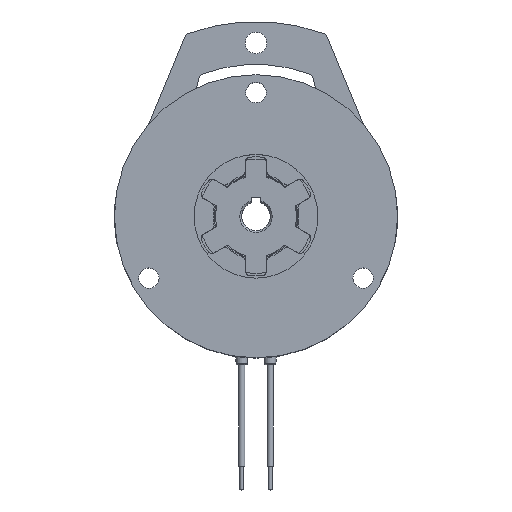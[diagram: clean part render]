
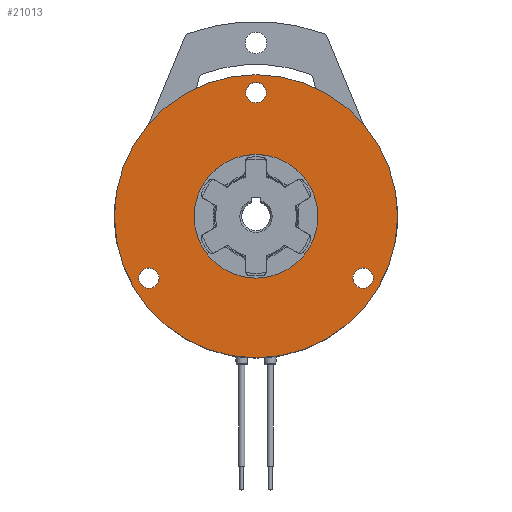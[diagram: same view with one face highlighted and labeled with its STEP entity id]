
A CAD part, top view. The second image highlights one B-rep face of the part: STEP entity #21013.
In plain terms, the highlighted planar face has unit normal (0, 0, 1).
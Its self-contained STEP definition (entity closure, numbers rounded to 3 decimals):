
#58 = CIRCLE ( 'NONE', #3859, 2.15 ) ;
#405 = AXIS2_PLACEMENT_3D ( 'NONE', #1272, #15796, #3523 ) ;
#568 = CARTESIAN_POINT ( 'NONE',  ( 20.367, -13., 0. ) ) ;
#1215 = CIRCLE ( 'NONE', #16111, 13. ) ;
#1272 = CARTESIAN_POINT ( 'NONE',  ( 22.517, -13., 0. ) ) ;
#1289 = FACE_OUTER_BOUND ( 'NONE', #18100, .T. ) ;
#1376 = CIRCLE ( 'NONE', #10727, 29.75 ) ;
#1677 = AXIS2_PLACEMENT_3D ( 'NONE', #15539, #5007, #13142 ) ;
#1711 = CARTESIAN_POINT ( 'NONE',  ( 0., 26., 0. ) ) ;
#1818 = EDGE_CURVE ( 'NONE', #10077, #25864, #13747, .T. ) ;
#1882 = EDGE_CURVE ( 'NONE', #24709, #17196, #5936, .T. ) ;
#1982 = ORIENTED_EDGE ( 'NONE', *, *, #17300, .F. ) ;
#2478 = CARTESIAN_POINT ( 'NONE',  ( 0., 0., 0. ) ) ;
#2924 = CARTESIAN_POINT ( 'NONE',  ( 0., 0., 0. ) ) ;
#2972 = CARTESIAN_POINT ( 'NONE',  ( -13., 0., 0. ) ) ;
#3523 = DIRECTION ( 'NONE',  ( 1., 0., 0. ) ) ;
#3561 = CARTESIAN_POINT ( 'NONE',  ( 24.667, -13., 0. ) ) ;
#3562 = CARTESIAN_POINT ( 'NONE',  ( -20.367, -13., 0. ) ) ;
#3859 = AXIS2_PLACEMENT_3D ( 'NONE', #1711, #18229, #10249 ) ;
#3934 = DIRECTION ( 'NONE',  ( 0., 0., 1. ) ) ;
#3959 = DIRECTION ( 'NONE',  ( 1., 0., 0. ) ) ;
#3989 = ORIENTED_EDGE ( 'NONE', *, *, #1882, .F. ) ;
#4498 = VERTEX_POINT ( 'NONE', #12205 ) ;
#5007 = DIRECTION ( 'NONE',  ( 0., 0., -1. ) ) ;
#5284 = CARTESIAN_POINT ( 'NONE',  ( 2.15, 26., 0. ) ) ;
#5403 = FACE_BOUND ( 'NONE', #24488, .T. ) ;
#5436 = CARTESIAN_POINT ( 'NONE',  ( -24.667, -13., 0. ) ) ;
#5936 = CIRCLE ( 'NONE', #23358, 2.15 ) ;
#6779 = CARTESIAN_POINT ( 'NONE',  ( 0., 0., 0. ) ) ;
#6958 = EDGE_LOOP ( 'NONE', ( #3989, #8108 ) ) ;
#7493 = DIRECTION ( 'NONE',  ( 1., 0., 0. ) ) ;
#7575 = VERTEX_POINT ( 'NONE', #2972 ) ;
#7676 = CARTESIAN_POINT ( 'NONE',  ( 22.517, -13., 0. ) ) ;
#8108 = ORIENTED_EDGE ( 'NONE', *, *, #20502, .F. ) ;
#8410 = EDGE_CURVE ( 'NONE', #20102, #15973, #14337, .T. ) ;
#8802 = ORIENTED_EDGE ( 'NONE', *, *, #13718, .F. ) ;
#8930 = ORIENTED_EDGE ( 'NONE', *, *, #12915, .F. ) ;
#9265 = PLANE ( 'NONE',  #1677 ) ;
#10040 = VERTEX_POINT ( 'NONE', #16322 ) ;
#10077 = VERTEX_POINT ( 'NONE', #3561 ) ;
#10249 = DIRECTION ( 'NONE',  ( 1., 0., 0. ) ) ;
#10727 = AXIS2_PLACEMENT_3D ( 'NONE', #2478, #22361, #24886 ) ;
#10987 = DIRECTION ( 'NONE',  ( 1., 0., 0. ) ) ;
#11632 = DIRECTION ( 'NONE',  ( 0., 0., 1. ) ) ;
#11832 = EDGE_LOOP ( 'NONE', ( #17225, #8802 ) ) ;
#11873 = ORIENTED_EDGE ( 'NONE', *, *, #8410, .F. ) ;
#11947 = DIRECTION ( 'NONE',  ( 0., 0., 1. ) ) ;
#12025 = AXIS2_PLACEMENT_3D ( 'NONE', #7676, #11947, #3959 ) ;
#12205 = CARTESIAN_POINT ( 'NONE',  ( 29.75, 0., 0. ) ) ;
#12548 = CARTESIAN_POINT ( 'NONE',  ( -29.75, 0., 0. ) ) ;
#12915 = EDGE_CURVE ( 'NONE', #7575, #10040, #14976, .T. ) ;
#13142 = DIRECTION ( 'NONE',  ( -1., 0., 0. ) ) ;
#13293 = EDGE_CURVE ( 'NONE', #4498, #16900, #1376, .T. ) ;
#13718 = EDGE_CURVE ( 'NONE', #25864, #10077, #23077, .T. ) ;
#13747 = CIRCLE ( 'NONE', #405, 2.15 ) ;
#14337 = CIRCLE ( 'NONE', #16047, 2.15 ) ;
#14925 = DIRECTION ( 'NONE',  ( 0., 0., 1. ) ) ;
#14976 = CIRCLE ( 'NONE', #18380, 13. ) ;
#15415 = FACE_BOUND ( 'NONE', #6958, .T. ) ;
#15539 = CARTESIAN_POINT ( 'NONE',  ( 0., 29.75, 0. ) ) ;
#15796 = DIRECTION ( 'NONE',  ( 0., 0., 1. ) ) ;
#15947 = EDGE_CURVE ( 'NONE', #16900, #4498, #18252, .T. ) ;
#15973 = VERTEX_POINT ( 'NONE', #23278 ) ;
#16047 = AXIS2_PLACEMENT_3D ( 'NONE', #25751, #20015, #10987 ) ;
#16111 = AXIS2_PLACEMENT_3D ( 'NONE', #2924, #17212, #25323 ) ;
#16322 = CARTESIAN_POINT ( 'NONE',  ( 13., 0., 0. ) ) ;
#16803 = DIRECTION ( 'NONE',  ( 1., 0., 0. ) ) ;
#16900 = VERTEX_POINT ( 'NONE', #12548 ) ;
#17196 = VERTEX_POINT ( 'NONE', #5436 ) ;
#17212 = DIRECTION ( 'NONE',  ( 0., 0., 1. ) ) ;
#17225 = ORIENTED_EDGE ( 'NONE', *, *, #1818, .F. ) ;
#17300 = EDGE_CURVE ( 'NONE', #15973, #20102, #58, .T. ) ;
#17789 = ORIENTED_EDGE ( 'NONE', *, *, #15947, .T. ) ;
#17896 = CIRCLE ( 'NONE', #24266, 2.15 ) ;
#18100 = EDGE_LOOP ( 'NONE', ( #19495, #17789 ) ) ;
#18229 = DIRECTION ( 'NONE',  ( 0., 0., 1. ) ) ;
#18252 = CIRCLE ( 'NONE', #25467, 29.75 ) ;
#18380 = AXIS2_PLACEMENT_3D ( 'NONE', #19185, #19027, #16803 ) ;
#18569 = DIRECTION ( 'NONE',  ( 1., 0., 0. ) ) ;
#18992 = FACE_BOUND ( 'NONE', #11832, .T. ) ;
#19027 = DIRECTION ( 'NONE',  ( 0., 0., 1. ) ) ;
#19185 = CARTESIAN_POINT ( 'NONE',  ( 0., 0., 0. ) ) ;
#19329 = EDGE_CURVE ( 'NONE', #10040, #7575, #1215, .T. ) ;
#19495 = ORIENTED_EDGE ( 'NONE', *, *, #13293, .T. ) ;
#19519 = FACE_BOUND ( 'NONE', #23941, .T. ) ;
#20015 = DIRECTION ( 'NONE',  ( 0., 0., 1. ) ) ;
#20102 = VERTEX_POINT ( 'NONE', #5284 ) ;
#20502 = EDGE_CURVE ( 'NONE', #17196, #24709, #17896, .T. ) ;
#21013 = ADVANCED_FACE ( 'NONE', ( #18992, #15415, #5403, #19519, #1289 ), #9265, .F. ) ;
#22361 = DIRECTION ( 'NONE',  ( 0., 0., 1. ) ) ;
#23032 = DIRECTION ( 'NONE',  ( 1., 0., 0. ) ) ;
#23077 = CIRCLE ( 'NONE', #12025, 2.15 ) ;
#23278 = CARTESIAN_POINT ( 'NONE',  ( -2.15, 26., 0. ) ) ;
#23358 = AXIS2_PLACEMENT_3D ( 'NONE', #24313, #3934, #18569 ) ;
#23855 = ORIENTED_EDGE ( 'NONE', *, *, #19329, .F. ) ;
#23941 = EDGE_LOOP ( 'NONE', ( #23855, #8930 ) ) ;
#24266 = AXIS2_PLACEMENT_3D ( 'NONE', #25761, #11632, #7493 ) ;
#24313 = CARTESIAN_POINT ( 'NONE',  ( -22.517, -13., 0. ) ) ;
#24488 = EDGE_LOOP ( 'NONE', ( #11873, #1982 ) ) ;
#24709 = VERTEX_POINT ( 'NONE', #3562 ) ;
#24886 = DIRECTION ( 'NONE',  ( 1., 0., 0. ) ) ;
#25323 = DIRECTION ( 'NONE',  ( 1., 0., 0. ) ) ;
#25467 = AXIS2_PLACEMENT_3D ( 'NONE', #6779, #14925, #23032 ) ;
#25751 = CARTESIAN_POINT ( 'NONE',  ( 0., 26., 0. ) ) ;
#25761 = CARTESIAN_POINT ( 'NONE',  ( -22.517, -13., 0. ) ) ;
#25864 = VERTEX_POINT ( 'NONE', #568 ) ;
